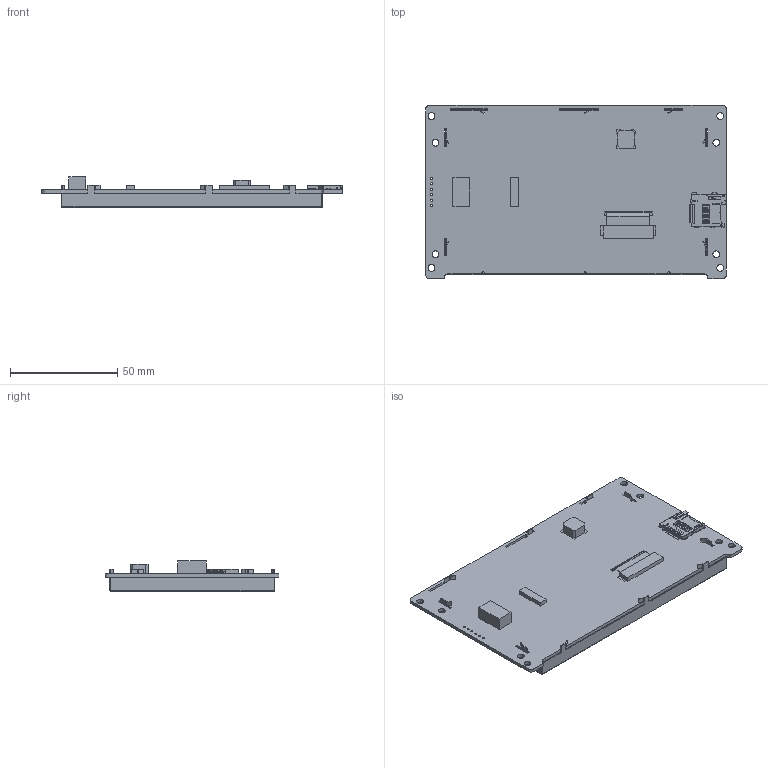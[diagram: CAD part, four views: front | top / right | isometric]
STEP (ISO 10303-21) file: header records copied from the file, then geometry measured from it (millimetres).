
FILE_DESCRIPTION(/* description */ (''),/* implementation_level */ '2;1');
FILE_NAME(/* name */ '',/* time_stamp */ '2023-11-20T18:48:50+08:00',/* author */ (''),/* organization */ (''),/* preprocessor_version */ 'ST-DEVELOPER v11',/* originating_system */ 'SIEMENS PLM Software NX 7.5',/* authorisation */ '');
FILE_SCHEMA (('AP203_CONFIGURATION_CONTROLLED_3D_DESIGN_OF_MECHANICAL_PARTS_AND_ASSEMBLIES_MIM_LF'));
Length unit declared in the file: millimetre
Products named in the file (1): SDWb050T84AN_stp
Bounding box: 140 x 80.9 x 14.1 mm (x, y, z)
Volume: 36295.9 mm3; surface area: 51340.9 mm2
Topology: 13 solids, 13 shells, 1157 faces, 3299 edges, 2144 vertices
Faces by surface type: plane 873, cylinder 282, cone 1, extrusion 1
Full cylindrical faces by diameter (mm): 0.889 x6, 3.2 x8
Entity records: 38177 total; most frequent: CARTESIAN_POINT 6934, ORIENTED_EDGE 6568, DIRECTION 6099, EDGE_CURVE 3284, VECTOR 2645, LINE 2644, VERTEX_POINT 2144, AXIS2_PLACEMENT_3D 1727
